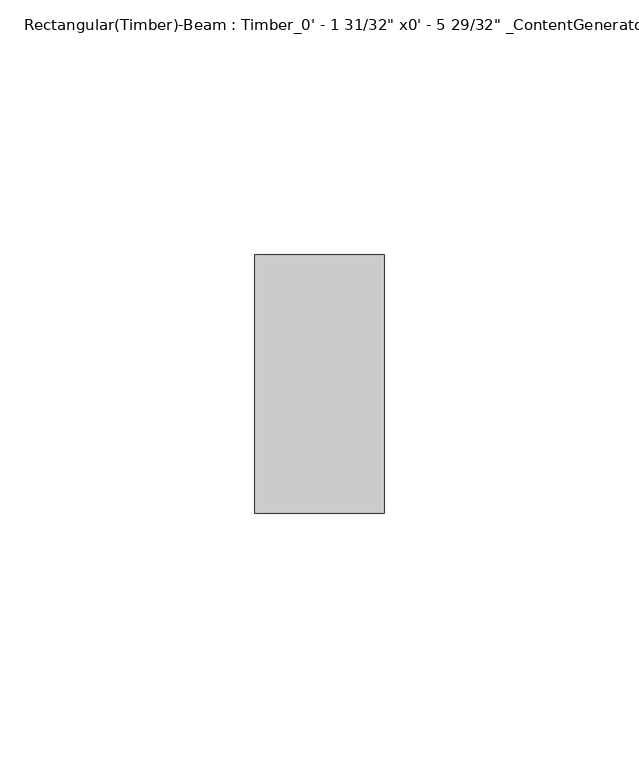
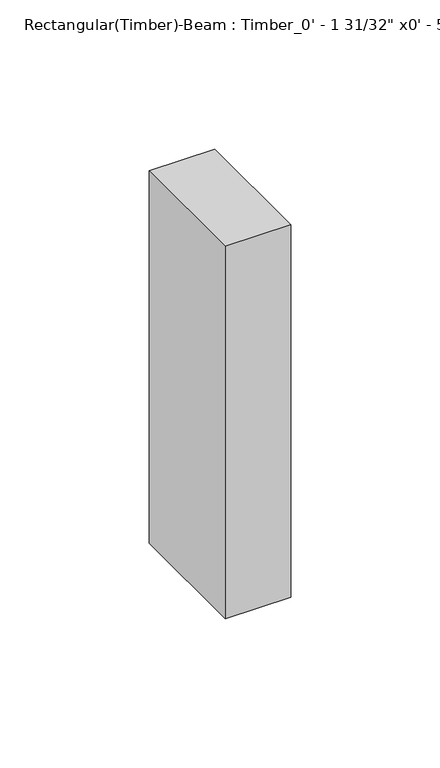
"""IFC4 building model written with IfcOpenShell, lengths in millimetres: beam geometry."""

from ifc_helpers import new_model, si_unit, frame, origin, place, context, project, spatial, polyline, outline, extrude, source, transform, mapped, element, save


def beam_67868551(model_context):
    return source(origin(), model_context, "Body", "SweptSolid", [
        extrude(outline(polyline([(25.4124994, 25.4), (25.4124994, -25.4), (-0.0125, -25.4), (-0.0125, 25.4), (25.4124994, 25.4)])), frame((0.0, 0.0, -76.2), z_axis=(0.0, 0.0, 1.0), x_axis=(1.0, 0.0, 0.0)), (0.0, 0.0, 1.0), 152.4),
    ])


if __name__ == "__main__":
    model = new_model("IFC4")
    model_context = context("Model", 3, world=origin())
    ifc_project = project(units=[si_unit("LENGTHUNIT", "METRE", prefix="MILLI")], contexts=[model_context])
    site = spatial("IfcSite", under=ifc_project)
    building = spatial("IfcBuilding", under=site)
    placement = place(None, origin())
    beam_shape = beam_67868551(model_context)
    element("IfcBeam", 1, ObjectType="Rectangular(Timber)-Beam : Timber_0' - 1 31/32\" x0' - 5 29/32\" _ContentGenerator", at=placement, inside=building, context=model_context, shape_type="MappedRepresentation", body=[
        mapped(beam_shape, transform((0.0, 0.0, 0.0), x_axis=(1.0, 0.0, 0.0), y_axis=(0.0, 1.0, 0.0), z_axis=(0.0, 0.0, 1.0))),
    ])
    save(model, "model.ifc")
